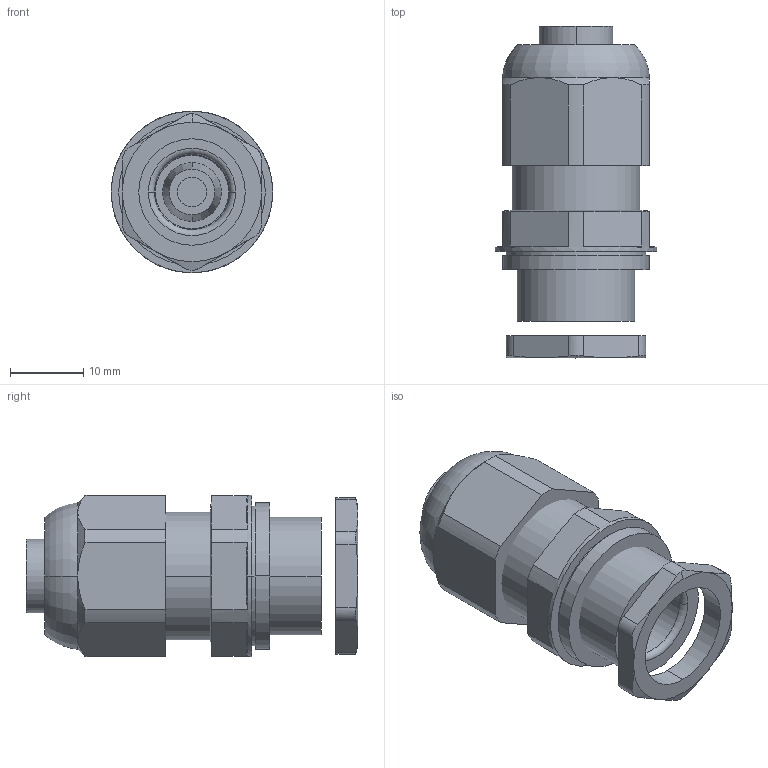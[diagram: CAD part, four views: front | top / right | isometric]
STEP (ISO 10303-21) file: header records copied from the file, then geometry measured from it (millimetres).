
FILE_DESCRIPTION (( 'STEP AP203' ), '1' );
FILE_NAME ('8161-_M16-9_m_Mutter_m_Stopfen.STEP', '2015-04-02T06:44:03', ( '' ), ( '' ), 'SwSTEP 2.0', 'SolidWorks 2015', '' );
FILE_SCHEMA (( 'CONFIG_CONTROL_DESIGN' ));
Length unit declared in the file: millimetre
Products named in the file (1): 8161-_M16-9_m_Mutter_m_Stopfen
Bounding box: 22 x 45.23 x 22 mm (x, y, z)
Volume: 8852.1 mm3; surface area: 8644.1 mm2
Topology: 6 solids, 6 shells, 433 faces, 1142 edges, 709 vertices
Faces by surface type: cone 132, cylinder 111, plane 109, torus 53, bspline 28
Entity records: 13668 total; most frequent: CARTESIAN_POINT 3030, DIRECTION 2265, ORIENTED_EDGE 2256, EDGE_CURVE 1128, AXIS2_PLACEMENT_3D 890, VERTEX_POINT 709, LINE 485, VECTOR 485
